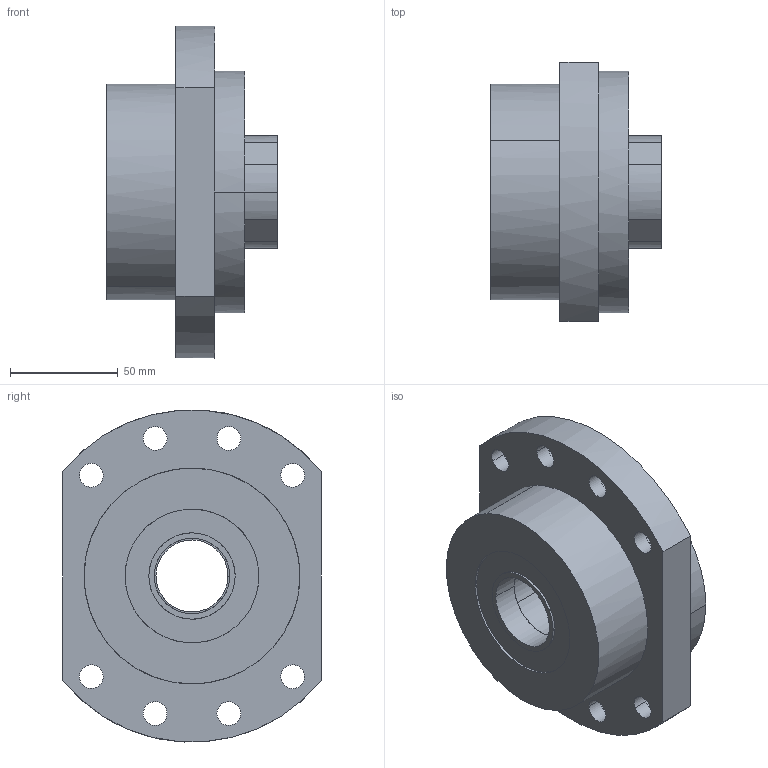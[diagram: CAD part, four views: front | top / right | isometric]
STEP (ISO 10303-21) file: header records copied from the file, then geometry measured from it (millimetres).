
FILE_DESCRIPTION(('CATIA V5 STEP Exchange'),'2;1');
FILE_NAME('D:\서포트 완성도면\FK\FK35.stp','2014-03-26T10:19:15+00:00',('none'),('none'),'CATIA Version 5 Release 18 GA (IN-10)','CATIA V5 STEP AP203','none');
FILE_SCHEMA(('CONFIG_CONTROL_DESIGN'));
Length unit declared in the file: millimetre
Products named in the file (1): FK35
Assembly tree (4 placements, depth 2):
  FK35
    #56
    #3390  x2
    #3666
Bounding box: 79 x 120 x 153.83 mm (x, y, z)
Volume: 605684.5 mm3; surface area: 82438.6 mm2
Topology: 4 solids, 4 shells, 92 faces, 212 edges, 142 vertices
Faces by surface type: cylinder 64, plane 28
Entity records: 4181 total; most frequent: CARTESIAN_POINT 2281, ORIENTED_EDGE 400, DIRECTION 271, EDGE_CURVE 200, VERTEX_POINT 134, EDGE_LOOP 122, AXIS2_PLACEMENT_3D 108, B_SPLINE_CURVE_WITH_KNOTS 95
